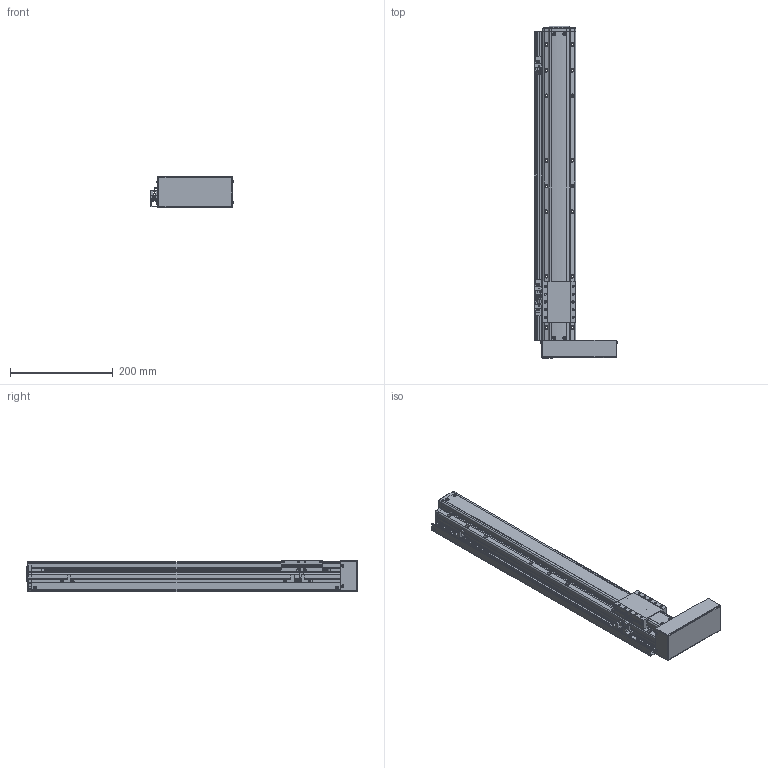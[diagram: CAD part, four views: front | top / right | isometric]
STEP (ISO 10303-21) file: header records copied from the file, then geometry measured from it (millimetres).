
FILE_DESCRIPTION(('STEP AP214'),'1');
FILE_NAME('Z:/Web/3D/PSA65/STP/PSA65-450 (3D)/PSA65ㅁㅁ-450PR+3SL.stp','2014-06-25T04:57:41',(' '),(' '),'Spatial InterOp 3D',' ',' ');
FILE_SCHEMA(('automotive_design'));
Length unit declared in the file: millimetre
Products named in the file (67): SLIDE; RRCV-PA060; 1; 2; 3; 4; 5; 6; 7; 8; 9; 10; 11; 12; 13; 14; 15; 16; 17; 18; 19; 20; 21; 22; 23; 24; 25; 26; 27; 28; 29; 30; 31; 스크루 : Round - M3.0 x 8.0; RN8 x 0.75; SHAFT-SAN65; BASE; 스크루 : Round - M3.0 x 6.0; BTCV-SAN65; BHCS M3 X 6L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
Bounding box: 162.06 x 644.8 x 62 mm (x, y, z)
Volume: 2224859.5 mm3; surface area: 361522.5 mm2
Topology: 67 solids, 67 shells, 2264 faces, 5967 edges, 3832 vertices
Faces by surface type: plane 1391, cylinder 589, cone 199, sphere 50, bspline 19, torus 16
Entity records: 89618 total; most frequent: CARTESIAN_POINT 13739, DIRECTION 12014, ORIENTED_EDGE 11682, EDGE_CURVE 5841, LINE 4120, VECTOR 4120, AXIS2_PLACEMENT_3D 3947, VERTEX_POINT 3832
